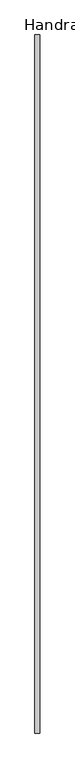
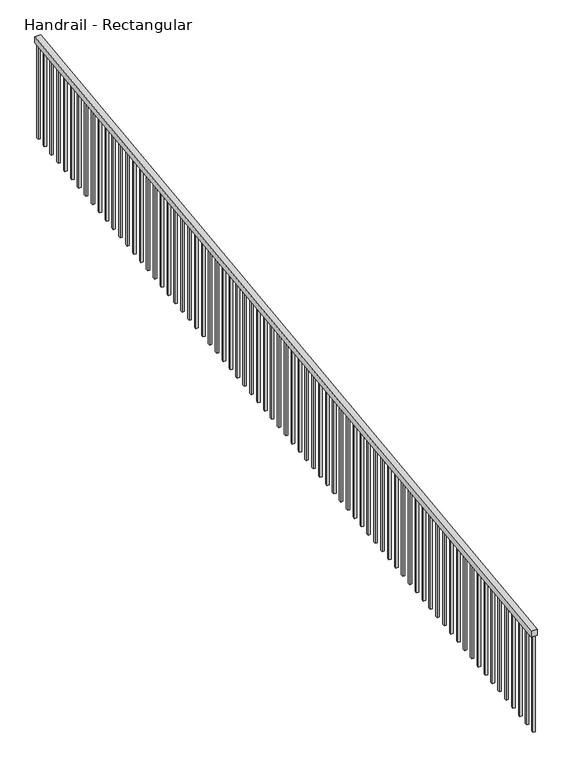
"""IFC4 building model written with IfcOpenShell, lengths in millimetres: railing geometry, Handrail - Rectangular."""

import ifcopenshell
import ifcopenshell.guid

model = None  # the IFC model being written
_history = None  # IfcOwnerHistory: only IFC2X3 demands one
_inside = {}  # id of a spatial element -> (the spatial element, [elements in it])
_under = {}  # id of a project, library or spatial element -> (it, [spatial elements below it])
_declared = {}  # id of a project -> (the project, [libraries it declares])
_typed = {}  # id of a type object -> (the type object, [elements of that type])
_made_of = {}  # id of a material, layer set ... -> (it, [elements and type objects made of it])


def new_model(schema):
    """Start an empty IFC model of exactly this schema.

    Asked for "IFC4X3", IfcOpenShell would pick the latest addendum, in which some entities
    have other attributes; the version numbers below select the first issue.
    IFC2X3 requires an IfcOwnerHistory on every rooted entity: one is made here for all.
    """
    global model, _history
    if schema == "IFC4X3":
        model = ifcopenshell.file(schema_version=(4, 3, 0, 0))
    else:
        model = ifcopenshell.file(schema=schema)
    _inside.clear()
    _under.clear()
    _declared.clear()
    _typed.clear()
    _made_of.clear()
    _history = None
    if model.schema == "IFC2X3":
        org = make("IfcOrganization", Name="unknown")
        user = make(
            "IfcPersonAndOrganization",
            ThePerson=make("IfcPerson", FamilyName="unknown"),
            TheOrganization=org,
        )
        app = make(
            "IfcApplication",
            ApplicationDeveloper=org,
            Version="unknown",
            ApplicationFullName="unknown",
            ApplicationIdentifier="unknown",
        )
        _history = make(
            "IfcOwnerHistory",
            OwningUser=user,
            OwningApplication=app,
            ChangeAction="ADDED",
            CreationDate=0,
        )
    return model


def make(cls, **values):
    """One entity of the class cls with the attributes given. An attribute that is None is left unset."""
    return model.create_entity(
        cls, **{name: value for name, value in values.items() if value is not None}
    )


def rooted(cls, **values):
    """An entity with a GlobalId (a new one), such as an element, a storey or a relation."""
    return make(cls, GlobalId=ifcopenshell.guid.new(), OwnerHistory=_history, **values)


def si_unit(unit_type, name, prefix=None):
    """IfcSIUnit, for example si_unit("LENGTHUNIT", "METRE", prefix="MILLI")."""
    return make("IfcSIUnit", UnitType=unit_type, Prefix=prefix, Name=name)


def assignment(units):
    """IfcUnitAssignment: the units of a project."""
    return None if units is None else make("IfcUnitAssignment", Units=units)


def point(xyz):
    """IfcCartesianPoint."""
    return None if xyz is None else make("IfcCartesianPoint", Coordinates=xyz)


def direction(xyz):
    """IfcDirection."""
    return None if xyz is None else make("IfcDirection", DirectionRatios=xyz)


def frame(location, z_axis=None, x_axis=None):
    """IfcAxis2Placement3D, a coordinate frame: its origin and axes. An axis left out is left unset."""
    return make(
        "IfcAxis2Placement3D",
        Location=point(location),
        Axis=direction(z_axis),
        RefDirection=direction(x_axis),
    )


def origin():
    """The frame at (0, 0, 0) with its axes left unset."""
    return frame((0.0, 0.0, 0.0))


def place(relative_to, where):
    """IfcLocalPlacement: puts the frame where relative to a parent placement (None: the world)."""
    return make(
        "IfcLocalPlacement", PlacementRelTo=relative_to, RelativePlacement=where
    )


def context(
    kind, dimensions, precision=None, world=None, true_north=None, identifier=None
):
    """IfcGeometricRepresentationContext, for example the 3D "Model" context."""
    return make(
        "IfcGeometricRepresentationContext",
        ContextIdentifier=identifier,
        ContextType=kind,
        CoordinateSpaceDimension=dimensions,
        Precision=precision,
        WorldCoordinateSystem=world,
        TrueNorth=true_north,
    )


def project(units=None, contexts=None):
    """IfcProject with its units and contexts."""
    return rooted(
        "IfcProject",
        Name="project",
        RepresentationContexts=contexts,
        UnitsInContext=assignment(units),
    )


def spatial(cls, under=None, at=None, **own):
    """A site, building, storey or space (cls), placed at a placement, below another one or the project."""
    s = rooted(cls, ObjectPlacement=at, **own)
    if under is not None:
        _under.setdefault(under.id(), (under, []))[1].append(s)
    return s


def polyline(points):
    """IfcPolyline through the points."""
    return make("IfcPolyline", Points=[point(p) for p in points])


def outline(outer, holes=None, kind="AREA"):
    """IfcArbitraryClosedProfileDef: a profile drawn as a closed curve; with holes, ...WithVoids."""
    if holes is None:
        return make("IfcArbitraryClosedProfileDef", ProfileType=kind, OuterCurve=outer)
    return make(
        "IfcArbitraryProfileDefWithVoids",
        ProfileType=kind,
        OuterCurve=outer,
        InnerCurves=holes,
    )


def extrude(swept, where, along, depth):
    """IfcExtrudedAreaSolid: the profile swept, set in the frame where, extruded along a direction by depth."""
    return make(
        "IfcExtrudedAreaSolid",
        SweptArea=swept,
        Position=where,
        ExtrudedDirection=direction(along),
        Depth=depth,
    )


def shape(context_of_items, identifier, shape_type, items):
    """IfcShapeRepresentation: the items that make up one representation, for example the "Body"."""
    return make(
        "IfcShapeRepresentation",
        ContextOfItems=context_of_items,
        RepresentationIdentifier=identifier,
        RepresentationType=shape_type,
        Items=items,
    )


def source(mapping_origin, context_of_items, identifier, shape_type, items):
    """IfcRepresentationMap: a shape defined once, which mapped items show again and again."""
    return make(
        "IfcRepresentationMap",
        MappingOrigin=mapping_origin,
        MappedRepresentation=shape(context_of_items, identifier, shape_type, items),
    )


def transform(
    local_origin,
    x_axis=None,
    y_axis=None,
    z_axis=None,
    scale=None,
    scale2=None,
    scale3=None,
    uniform=True,
):
    """IfcCartesianTransformationOperator3D, or its non-uniform kind. x_axis, y_axis, z_axis: its Axis1, 2, 3."""
    if uniform:
        return make(
            "IfcCartesianTransformationOperator3D",
            Axis1=direction(x_axis),
            Axis2=direction(y_axis),
            LocalOrigin=point(local_origin),
            Scale=scale,
            Axis3=direction(z_axis),
        )
    return make(
        "IfcCartesianTransformationOperator3DnonUniform",
        Axis1=direction(x_axis),
        Axis2=direction(y_axis),
        LocalOrigin=point(local_origin),
        Scale=scale,
        Axis3=direction(z_axis),
        Scale2=scale2,
        Scale3=scale3,
    )


def mapped(mapping_source, mapping_target):
    """IfcMappedItem: shows the shape of a source again, moved by a transform."""
    return make(
        "IfcMappedItem", MappingSource=mapping_source, MappingTarget=mapping_target
    )


def made_of(thing, what):
    """Note that an element or type object is made of a material, layer set ...; save() writes the relation."""
    if what is not None:
        _made_of.setdefault(what.id(), (what, []))[1].append(thing)
    return thing


def element(
    cls,
    number,
    at=None,
    inside=None,
    cuts=None,
    type_object=None,
    material=None,
    context=None,
    identifier="Body",
    shape_type=None,
    held_by="IfcProductDefinitionShape",
    body=None,
    shapes=None,
    **own,
):
    """One element of the class cls, such as IfcWall. Its Tag is "e" and its number.

    at: its placement. inside: the storey or other place that contains it. cuts: it is an
    opening in that element (IfcRelVoidsElement). A single representation is given by context,
    identifier, shape_type and body (its items); several are given by shapes. held_by: the class
    of the entity that holds the representations. save() writes the other relations.
    """
    e = rooted(cls, Tag="e%d" % number, ObjectPlacement=at, **own)
    if body is not None:
        shapes = [shape(context, identifier, shape_type, body)]
    if shapes is not None:
        e.Representation = make(held_by, Representations=shapes)
    if inside is not None:
        _inside.setdefault(inside.id(), (inside, []))[1].append(e)
    if cuts is not None:
        rooted(
            "IfcRelVoidsElement", RelatingBuildingElement=cuts, RelatedOpeningElement=e
        )
    if type_object is not None:
        _typed.setdefault(type_object.id(), (type_object, []))[1].append(e)
    return made_of(e, material)


def aggregate(whole, parts):
    """IfcRelAggregates: a whole, such as a stair, and the parts it consists of."""
    return rooted("IfcRelAggregates", RelatingObject=whole, RelatedObjects=parts)


def save(model, path):
    """Write the relations noted so far, then the file.

    IfcRelAggregates (storeys below a building ...), IfcRelContainedInSpatialStructure (elements
    in a storey), IfcRelDefinesByType, IfcRelAssociatesMaterial and IfcRelDeclares: one each for
    every whole, place, type object, material and project.
    """
    for whole, parts in _under.values():
        aggregate(whole, parts)
    for where, things in _inside.values():
        rooted(
            "IfcRelContainedInSpatialStructure",
            RelatedElements=things,
            RelatingStructure=where,
        )
    for kind, things in _typed.values():
        rooted("IfcRelDefinesByType", RelatedObjects=things, RelatingType=kind)
    for what, things in _made_of.values():
        rooted("IfcRelAssociatesMaterial", RelatedObjects=things, RelatingMaterial=what)
    for by, libraries in _declared.values():
        rooted("IfcRelDeclares", RelatingContext=by, RelatedDefinitions=libraries)
    model.write(path)


def handrail_rectangular_7ac86f87(model_context):
    return source(origin(), model_context, "Body", "SweptSolid", [
        extrude(outline(polyline([(-10044.7467479, -51.1953367), (-10044.7467479, 0.0), (-2729.5467479, 914.4), (-2729.5467479, 863.2046633), (-10044.7467479, -51.1953367)])), frame((-169.3256242, 0.0, 0.0), z_axis=(1.0, 0.0, 0.0), x_axis=(0.0, 1.0, 0.0)), (0.0, 0.0, 1.0), 50.8),
        extrude(outline(polyline([(-2821.6217479, 851.6952883), (-2821.6217479, -11.509375), (-2840.6717479, -13.890625), (-2840.6717479, 849.3140383), (-2821.6217479, 851.6952883)])), frame((-153.4506242, 0.0, 0.0), z_axis=(1.0, 0.0, 0.0), x_axis=(0.0, 1.0, 0.0)), (0.0, 0.0, 1.0), 19.05),
        extrude(outline(polyline([(-2923.2217479, 838.9952883), (-2923.2217479, -24.209375), (-2942.2717479, -26.590625), (-2942.2717479, 836.6140383), (-2923.2217479, 838.9952883)])), frame((-153.4506242, 0.0, 0.0), z_axis=(1.0, 0.0, 0.0), x_axis=(0.0, 1.0, 0.0)), (0.0, 0.0, 1.0), 19.05),
        extrude(outline(polyline([(-3024.8217479, 826.2952883), (-3024.8217479, -36.909375), (-3043.8717479, -39.290625), (-3043.8717479, 823.9140383), (-3024.8217479, 826.2952883)])), frame((-153.4506242, 0.0, 0.0), z_axis=(1.0, 0.0, 0.0), x_axis=(0.0, 1.0, 0.0)), (0.0, 0.0, 1.0), 19.05),
        extrude(outline(polyline([(-3126.4217479, 813.5952883), (-3126.4217479, -49.609375), (-3145.4717479, -51.990625), (-3145.4717479, 811.2140383), (-3126.4217479, 813.5952883)])), frame((-153.4506242, 0.0, 0.0), z_axis=(1.0, 0.0, 0.0), x_axis=(0.0, 1.0, 0.0)), (0.0, 0.0, 1.0), 19.05),
        extrude(outline(polyline([(-3228.0217479, 800.8952883), (-3228.0217479, -62.309375), (-3247.0717479, -64.690625), (-3247.0717479, 798.5140383), (-3228.0217479, 800.8952883)])), frame((-153.4506242, 0.0, 0.0), z_axis=(1.0, 0.0, 0.0), x_axis=(0.0, 1.0, 0.0)), (0.0, 0.0, 1.0), 19.05),
        extrude(outline(polyline([(-3329.6217479, 788.1952883), (-3329.6217479, -75.009375), (-3348.6717479, -77.390625), (-3348.6717479, 785.8140383), (-3329.6217479, 788.1952883)])), frame((-153.4506242, 0.0, 0.0), z_axis=(1.0, 0.0, 0.0), x_axis=(0.0, 1.0, 0.0)), (0.0, 0.0, 1.0), 19.05),
        extrude(outline(polyline([(-3431.2217479, 775.4952883), (-3431.2217479, -87.709375), (-3450.2717479, -90.090625), (-3450.2717479, 773.1140383), (-3431.2217479, 775.4952883)])), frame((-153.4506242, 0.0, 0.0), z_axis=(1.0, 0.0, 0.0), x_axis=(0.0, 1.0, 0.0)), (0.0, 0.0, 1.0), 19.05),
        extrude(outline(polyline([(-3532.8217479, 762.7952883), (-3532.8217479, -100.409375), (-3551.8717479, -102.790625), (-3551.8717479, 760.4140383), (-3532.8217479, 762.7952883)])), frame((-153.4506242, 0.0, 0.0), z_axis=(1.0, 0.0, 0.0), x_axis=(0.0, 1.0, 0.0)), (0.0, 0.0, 1.0), 19.05),
        extrude(outline(polyline([(-3634.4217479, 750.0952883), (-3634.4217479, -113.109375), (-3653.4717479, -115.490625), (-3653.4717479, 747.7140383), (-3634.4217479, 750.0952883)])), frame((-153.4506242, 0.0, 0.0), z_axis=(1.0, 0.0, 0.0), x_axis=(0.0, 1.0, 0.0)), (0.0, 0.0, 1.0), 19.05),
        extrude(outline(polyline([(-3736.0217479, 737.3952883), (-3736.0217479, -125.809375), (-3755.0717479, -128.190625), (-3755.0717479, 735.0140383), (-3736.0217479, 737.3952883)])), frame((-153.4506242, 0.0, 0.0), z_axis=(1.0, 0.0, 0.0), x_axis=(0.0, 1.0, 0.0)), (0.0, 0.0, 1.0), 19.05),
        extrude(outline(polyline([(-3837.6217479, 724.6952883), (-3837.6217479, -138.509375), (-3856.6717479, -140.890625), (-3856.6717479, 722.3140383), (-3837.6217479, 724.6952883)])), frame((-153.4506242, 0.0, 0.0), z_axis=(1.0, 0.0, 0.0), x_axis=(0.0, 1.0, 0.0)), (0.0, 0.0, 1.0), 19.05),
        extrude(outline(polyline([(-3939.2217479, 711.9952883), (-3939.2217479, -151.209375), (-3958.2717479, -153.590625), (-3958.2717479, 709.6140383), (-3939.2217479, 711.9952883)])), frame((-153.4506242, 0.0, 0.0), z_axis=(1.0, 0.0, 0.0), x_axis=(0.0, 1.0, 0.0)), (0.0, 0.0, 1.0), 19.05),
        extrude(outline(polyline([(-4040.8217479, 699.2952883), (-4040.8217479, -163.909375), (-4059.8717479, -166.290625), (-4059.8717479, 696.9140383), (-4040.8217479, 699.2952883)])), frame((-153.4506242, 0.0, 0.0), z_axis=(1.0, 0.0, 0.0), x_axis=(0.0, 1.0, 0.0)), (0.0, 0.0, 1.0), 19.05),
        extrude(outline(polyline([(-4142.4217479, 686.5952883), (-4142.4217479, -176.609375), (-4161.4717479, -178.990625), (-4161.4717479, 684.2140383), (-4142.4217479, 686.5952883)])), frame((-153.4506242, 0.0, 0.0), z_axis=(1.0, 0.0, 0.0), x_axis=(0.0, 1.0, 0.0)), (0.0, 0.0, 1.0), 19.05),
        extrude(outline(polyline([(-4244.0217479, 673.8952883), (-4244.0217479, -189.309375), (-4263.0717479, -191.690625), (-4263.0717479, 671.5140383), (-4244.0217479, 673.8952883)])), frame((-153.4506242, 0.0, 0.0), z_axis=(1.0, 0.0, 0.0), x_axis=(0.0, 1.0, 0.0)), (0.0, 0.0, 1.0), 19.05),
        extrude(outline(polyline([(-4345.6217479, 661.1952883), (-4345.6217479, -202.009375), (-4364.6717479, -204.390625), (-4364.6717479, 658.8140383), (-4345.6217479, 661.1952883)])), frame((-153.4506242, 0.0, 0.0), z_axis=(1.0, 0.0, 0.0), x_axis=(0.0, 1.0, 0.0)), (0.0, 0.0, 1.0), 19.05),
        extrude(outline(polyline([(-4447.2217479, 648.4952883), (-4447.2217479, -214.709375), (-4466.2717479, -217.090625), (-4466.2717479, 646.1140383), (-4447.2217479, 648.4952883)])), frame((-153.4506242, 0.0, 0.0), z_axis=(1.0, 0.0, 0.0), x_axis=(0.0, 1.0, 0.0)), (0.0, 0.0, 1.0), 19.05),
        extrude(outline(polyline([(-4548.8217479, 635.7952883), (-4548.8217479, -227.409375), (-4567.8717479, -229.790625), (-4567.8717479, 633.4140383), (-4548.8217479, 635.7952883)])), frame((-153.4506242, 0.0, 0.0), z_axis=(1.0, 0.0, 0.0), x_axis=(0.0, 1.0, 0.0)), (0.0, 0.0, 1.0), 19.05),
        extrude(outline(polyline([(-4650.4217479, 623.0952883), (-4650.4217479, -240.109375), (-4669.4717479, -242.490625), (-4669.4717479, 620.7140383), (-4650.4217479, 623.0952883)])), frame((-153.4506242, 0.0, 0.0), z_axis=(1.0, 0.0, 0.0), x_axis=(0.0, 1.0, 0.0)), (0.0, 0.0, 1.0), 19.05),
        extrude(outline(polyline([(-4752.0217479, 610.3952883), (-4752.0217479, -252.809375), (-4771.0717479, -255.190625), (-4771.0717479, 608.0140383), (-4752.0217479, 610.3952883)])), frame((-153.4506242, 0.0, 0.0), z_axis=(1.0, 0.0, 0.0), x_axis=(0.0, 1.0, 0.0)), (0.0, 0.0, 1.0), 19.05),
        extrude(outline(polyline([(-4853.6217479, 597.6952883), (-4853.6217479, -265.509375), (-4872.6717479, -267.890625), (-4872.6717479, 595.3140383), (-4853.6217479, 597.6952883)])), frame((-153.4506242, 0.0, 0.0), z_axis=(1.0, 0.0, 0.0), x_axis=(0.0, 1.0, 0.0)), (0.0, 0.0, 1.0), 19.05),
        extrude(outline(polyline([(-4955.2217479, 584.9952883), (-4955.2217479, -278.209375), (-4974.2717479, -280.590625), (-4974.2717479, 582.6140383), (-4955.2217479, 584.9952883)])), frame((-153.4506242, 0.0, 0.0), z_axis=(1.0, 0.0, 0.0), x_axis=(0.0, 1.0, 0.0)), (0.0, 0.0, 1.0), 19.05),
        extrude(outline(polyline([(-5056.8217479, 572.2952883), (-5056.8217479, -290.909375), (-5075.8717479, -293.290625), (-5075.8717479, 569.9140383), (-5056.8217479, 572.2952883)])), frame((-153.4506242, 0.0, 0.0), z_axis=(1.0, 0.0, 0.0), x_axis=(0.0, 1.0, 0.0)), (0.0, 0.0, 1.0), 19.05),
        extrude(outline(polyline([(-5158.4217479, 559.5952883), (-5158.4217479, -303.609375), (-5177.4717479, -305.990625), (-5177.4717479, 557.2140383), (-5158.4217479, 559.5952883)])), frame((-153.4506242, 0.0, 0.0), z_axis=(1.0, 0.0, 0.0), x_axis=(0.0, 1.0, 0.0)), (0.0, 0.0, 1.0), 19.05),
        extrude(outline(polyline([(-5260.0217479, 546.8952883), (-5260.0217479, -316.309375), (-5279.0717479, -318.690625), (-5279.0717479, 544.5140383), (-5260.0217479, 546.8952883)])), frame((-153.4506242, 0.0, 0.0), z_axis=(1.0, 0.0, 0.0), x_axis=(0.0, 1.0, 0.0)), (0.0, 0.0, 1.0), 19.05),
        extrude(outline(polyline([(-5361.6217479, 534.1952883), (-5361.6217479, -329.009375), (-5380.6717479, -331.390625), (-5380.6717479, 531.8140383), (-5361.6217479, 534.1952883)])), frame((-153.4506242, 0.0, 0.0), z_axis=(1.0, 0.0, 0.0), x_axis=(0.0, 1.0, 0.0)), (0.0, 0.0, 1.0), 19.05),
        extrude(outline(polyline([(-5463.2217479, 521.4952883), (-5463.2217479, -341.709375), (-5482.2717479, -344.090625), (-5482.2717479, 519.1140383), (-5463.2217479, 521.4952883)])), frame((-153.4506242, 0.0, 0.0), z_axis=(1.0, 0.0, 0.0), x_axis=(0.0, 1.0, 0.0)), (0.0, 0.0, 1.0), 19.05),
        extrude(outline(polyline([(-5564.8217479, 508.7952883), (-5564.8217479, -354.409375), (-5583.8717479, -356.790625), (-5583.8717479, 506.4140383), (-5564.8217479, 508.7952883)])), frame((-153.4506242, 0.0, 0.0), z_axis=(1.0, 0.0, 0.0), x_axis=(0.0, 1.0, 0.0)), (0.0, 0.0, 1.0), 19.05),
        extrude(outline(polyline([(-5666.4217479, 496.0952883), (-5666.4217479, -367.109375), (-5685.4717479, -369.490625), (-5685.4717479, 493.7140383), (-5666.4217479, 496.0952883)])), frame((-153.4506242, 0.0, 0.0), z_axis=(1.0, 0.0, 0.0), x_axis=(0.0, 1.0, 0.0)), (0.0, 0.0, 1.0), 19.05),
        extrude(outline(polyline([(-5768.0217479, 483.3952883), (-5768.0217479, -379.809375), (-5787.0717479, -382.190625), (-5787.0717479, 481.0140383), (-5768.0217479, 483.3952883)])), frame((-153.4506242, 0.0, 0.0), z_axis=(1.0, 0.0, 0.0), x_axis=(0.0, 1.0, 0.0)), (0.0, 0.0, 1.0), 19.05),
        extrude(outline(polyline([(-5869.6217479, 470.6952883), (-5869.6217479, -392.509375), (-5888.6717479, -394.890625), (-5888.6717479, 468.3140383), (-5869.6217479, 470.6952883)])), frame((-153.4506242, 0.0, 0.0), z_axis=(1.0, 0.0, 0.0), x_axis=(0.0, 1.0, 0.0)), (0.0, 0.0, 1.0), 19.05),
        extrude(outline(polyline([(-5971.2217479, 457.9952883), (-5971.2217479, -405.209375), (-5990.2717479, -407.590625), (-5990.2717479, 455.6140383), (-5971.2217479, 457.9952883)])), frame((-153.4506242, 0.0, 0.0), z_axis=(1.0, 0.0, 0.0), x_axis=(0.0, 1.0, 0.0)), (0.0, 0.0, 1.0), 19.05),
        extrude(outline(polyline([(-6072.8217479, 445.2952883), (-6072.8217479, -417.909375), (-6091.8717479, -420.290625), (-6091.8717479, 442.9140383), (-6072.8217479, 445.2952883)])), frame((-153.4506242, 0.0, 0.0), z_axis=(1.0, 0.0, 0.0), x_axis=(0.0, 1.0, 0.0)), (0.0, 0.0, 1.0), 19.05),
        extrude(outline(polyline([(-6174.4217479, 432.5952883), (-6174.4217479, -430.609375), (-6193.4717479, -432.990625), (-6193.4717479, 430.2140383), (-6174.4217479, 432.5952883)])), frame((-153.4506242, 0.0, 0.0), z_axis=(1.0, 0.0, 0.0), x_axis=(0.0, 1.0, 0.0)), (0.0, 0.0, 1.0), 19.05),
        extrude(outline(polyline([(-6276.0217479, 419.8952883), (-6276.0217479, -443.309375), (-6295.0717479, -445.690625), (-6295.0717479, 417.5140383), (-6276.0217479, 419.8952883)])), frame((-153.4506242, 0.0, 0.0), z_axis=(1.0, 0.0, 0.0), x_axis=(0.0, 1.0, 0.0)), (0.0, 0.0, 1.0), 19.05),
        extrude(outline(polyline([(-6377.6217479, 407.1952883), (-6377.6217479, -456.009375), (-6396.6717479, -458.390625), (-6396.6717479, 404.8140383), (-6377.6217479, 407.1952883)])), frame((-153.4506242, 0.0, 0.0), z_axis=(1.0, 0.0, 0.0), x_axis=(0.0, 1.0, 0.0)), (0.0, 0.0, 1.0), 19.05),
        extrude(outline(polyline([(-6479.2217479, 394.4952883), (-6479.2217479, -468.709375), (-6498.2717479, -471.090625), (-6498.2717479, 392.1140383), (-6479.2217479, 394.4952883)])), frame((-153.4506242, 0.0, 0.0), z_axis=(1.0, 0.0, 0.0), x_axis=(0.0, 1.0, 0.0)), (0.0, 0.0, 1.0), 19.05),
        extrude(outline(polyline([(-6580.8217479, 381.7952883), (-6580.8217479, -481.409375), (-6599.8717479, -483.790625), (-6599.8717479, 379.4140383), (-6580.8217479, 381.7952883)])), frame((-153.4506242, 0.0, 0.0), z_axis=(1.0, 0.0, 0.0), x_axis=(0.0, 1.0, 0.0)), (0.0, 0.0, 1.0), 19.05),
        extrude(outline(polyline([(-6682.4217479, 369.0952883), (-6682.4217479, -494.109375), (-6701.4717479, -496.490625), (-6701.4717479, 366.7140383), (-6682.4217479, 369.0952883)])), frame((-153.4506242, 0.0, 0.0), z_axis=(1.0, 0.0, 0.0), x_axis=(0.0, 1.0, 0.0)), (0.0, 0.0, 1.0), 19.05),
        extrude(outline(polyline([(-6784.0217479, 356.3952883), (-6784.0217479, -506.809375), (-6803.0717479, -509.190625), (-6803.0717479, 354.0140383), (-6784.0217479, 356.3952883)])), frame((-153.4506242, 0.0, 0.0), z_axis=(1.0, 0.0, 0.0), x_axis=(0.0, 1.0, 0.0)), (0.0, 0.0, 1.0), 19.05),
        extrude(outline(polyline([(-6885.6217479, 343.6952883), (-6885.6217479, -519.509375), (-6904.6717479, -521.890625), (-6904.6717479, 341.3140383), (-6885.6217479, 343.6952883)])), frame((-153.4506242, 0.0, 0.0), z_axis=(1.0, 0.0, 0.0), x_axis=(0.0, 1.0, 0.0)), (0.0, 0.0, 1.0), 19.05),
        extrude(outline(polyline([(-6987.2217479, 330.9952883), (-6987.2217479, -532.209375), (-7006.2717479, -534.590625), (-7006.2717479, 328.6140383), (-6987.2217479, 330.9952883)])), frame((-153.4506242, 0.0, 0.0), z_axis=(1.0, 0.0, 0.0), x_axis=(0.0, 1.0, 0.0)), (0.0, 0.0, 1.0), 19.05),
        extrude(outline(polyline([(-7088.8217479, 318.2952883), (-7088.8217479, -544.909375), (-7107.8717479, -547.290625), (-7107.8717479, 315.9140383), (-7088.8217479, 318.2952883)])), frame((-153.4506242, 0.0, 0.0), z_axis=(1.0, 0.0, 0.0), x_axis=(0.0, 1.0, 0.0)), (0.0, 0.0, 1.0), 19.05),
        extrude(outline(polyline([(-7190.4217479, 305.5952883), (-7190.4217479, -557.609375), (-7209.4717479, -559.990625), (-7209.4717479, 303.2140383), (-7190.4217479, 305.5952883)])), frame((-153.4506242, 0.0, 0.0), z_axis=(1.0, 0.0, 0.0), x_axis=(0.0, 1.0, 0.0)), (0.0, 0.0, 1.0), 19.05),
        extrude(outline(polyline([(-7292.0217479, 292.8952883), (-7292.0217479, -570.309375), (-7311.0717479, -572.690625), (-7311.0717479, 290.5140383), (-7292.0217479, 292.8952883)])), frame((-153.4506242, 0.0, 0.0), z_axis=(1.0, 0.0, 0.0), x_axis=(0.0, 1.0, 0.0)), (0.0, 0.0, 1.0), 19.05),
        extrude(outline(polyline([(-7393.6217479, 280.1952883), (-7393.6217479, -583.009375), (-7412.6717479, -585.390625), (-7412.6717479, 277.8140383), (-7393.6217479, 280.1952883)])), frame((-153.4506242, 0.0, 0.0), z_axis=(1.0, 0.0, 0.0), x_axis=(0.0, 1.0, 0.0)), (0.0, 0.0, 1.0), 19.05),
        extrude(outline(polyline([(-7495.2217479, 267.4952883), (-7495.2217479, -595.709375), (-7514.2717479, -598.090625), (-7514.2717479, 265.1140383), (-7495.2217479, 267.4952883)])), frame((-153.4506242, 0.0, 0.0), z_axis=(1.0, 0.0, 0.0), x_axis=(0.0, 1.0, 0.0)), (0.0, 0.0, 1.0), 19.05),
        extrude(outline(polyline([(-7596.8217479, 254.7952883), (-7596.8217479, -608.409375), (-7615.8717479, -610.790625), (-7615.8717479, 252.4140383), (-7596.8217479, 254.7952883)])), frame((-153.4506242, 0.0, 0.0), z_axis=(1.0, 0.0, 0.0), x_axis=(0.0, 1.0, 0.0)), (0.0, 0.0, 1.0), 19.05),
        extrude(outline(polyline([(-7698.4217479, 242.0952883), (-7698.4217479, -621.109375), (-7717.4717479, -623.490625), (-7717.4717479, 239.7140383), (-7698.4217479, 242.0952883)])), frame((-153.4506242, 0.0, 0.0), z_axis=(1.0, 0.0, 0.0), x_axis=(0.0, 1.0, 0.0)), (0.0, 0.0, 1.0), 19.05),
        extrude(outline(polyline([(-7800.0217479, 229.3952883), (-7800.0217479, -633.809375), (-7819.0717479, -636.190625), (-7819.0717479, 227.0140383), (-7800.0217479, 229.3952883)])), frame((-153.4506242, 0.0, 0.0), z_axis=(1.0, 0.0, 0.0), x_axis=(0.0, 1.0, 0.0)), (0.0, 0.0, 1.0), 19.05),
        extrude(outline(polyline([(-7901.6217479, 216.6952883), (-7901.6217479, -646.509375), (-7920.6717479, -648.890625), (-7920.6717479, 214.3140383), (-7901.6217479, 216.6952883)])), frame((-153.4506242, 0.0, 0.0), z_axis=(1.0, 0.0, 0.0), x_axis=(0.0, 1.0, 0.0)), (0.0, 0.0, 1.0), 19.05),
        extrude(outline(polyline([(-8003.2217479, 203.9952883), (-8003.2217479, -659.209375), (-8022.2717479, -661.590625), (-8022.2717479, 201.6140383), (-8003.2217479, 203.9952883)])), frame((-153.4506242, 0.0, 0.0), z_axis=(1.0, 0.0, 0.0), x_axis=(0.0, 1.0, 0.0)), (0.0, 0.0, 1.0), 19.05),
        extrude(outline(polyline([(-8104.8217479, 191.2952883), (-8104.8217479, -671.909375), (-8123.8717479, -674.290625), (-8123.8717479, 188.9140383), (-8104.8217479, 191.2952883)])), frame((-153.4506242, 0.0, 0.0), z_axis=(1.0, 0.0, 0.0), x_axis=(0.0, 1.0, 0.0)), (0.0, 0.0, 1.0), 19.05),
        extrude(outline(polyline([(-8206.4217479, 178.5952883), (-8206.4217479, -684.609375), (-8225.4717479, -686.990625), (-8225.4717479, 176.2140383), (-8206.4217479, 178.5952883)])), frame((-153.4506242, 0.0, 0.0), z_axis=(1.0, 0.0, 0.0), x_axis=(0.0, 1.0, 0.0)), (0.0, 0.0, 1.0), 19.05),
        extrude(outline(polyline([(-8308.0217479, 165.8952883), (-8308.0217479, -697.309375), (-8327.0717479, -699.690625), (-8327.0717479, 163.5140383), (-8308.0217479, 165.8952883)])), frame((-153.4506242, 0.0, 0.0), z_axis=(1.0, 0.0, 0.0), x_axis=(0.0, 1.0, 0.0)), (0.0, 0.0, 1.0), 19.05),
        extrude(outline(polyline([(-8409.6217479, 153.1952883), (-8409.6217479, -710.009375), (-8428.6717479, -712.390625), (-8428.6717479, 150.8140383), (-8409.6217479, 153.1952883)])), frame((-153.4506242, 0.0, 0.0), z_axis=(1.0, 0.0, 0.0), x_axis=(0.0, 1.0, 0.0)), (0.0, 0.0, 1.0), 19.05),
        extrude(outline(polyline([(-8511.2217479, 140.4952883), (-8511.2217479, -722.709375), (-8530.2717479, -725.090625), (-8530.2717479, 138.1140383), (-8511.2217479, 140.4952883)])), frame((-153.4506242, 0.0, 0.0), z_axis=(1.0, 0.0, 0.0), x_axis=(0.0, 1.0, 0.0)), (0.0, 0.0, 1.0), 19.05),
        extrude(outline(polyline([(-8612.8217479, 127.7952883), (-8612.8217479, -735.409375), (-8631.8717479, -737.790625), (-8631.8717479, 125.4140383), (-8612.8217479, 127.7952883)])), frame((-153.4506242, 0.0, 0.0), z_axis=(1.0, 0.0, 0.0), x_axis=(0.0, 1.0, 0.0)), (0.0, 0.0, 1.0), 19.05),
        extrude(outline(polyline([(-8714.4217479, 115.0952883), (-8714.4217479, -748.109375), (-8733.4717479, -750.490625), (-8733.4717479, 112.7140383), (-8714.4217479, 115.0952883)])), frame((-153.4506242, 0.0, 0.0), z_axis=(1.0, 0.0, 0.0), x_axis=(0.0, 1.0, 0.0)), (0.0, 0.0, 1.0), 19.05),
        extrude(outline(polyline([(-8816.0217479, 102.3952883), (-8816.0217479, -760.809375), (-8835.0717479, -763.190625), (-8835.0717479, 100.0140383), (-8816.0217479, 102.3952883)])), frame((-153.4506242, 0.0, 0.0), z_axis=(1.0, 0.0, 0.0), x_axis=(0.0, 1.0, 0.0)), (0.0, 0.0, 1.0), 19.05),
        extrude(outline(polyline([(-8917.6217479, 89.6952883), (-8917.6217479, -773.509375), (-8936.6717479, -775.890625), (-8936.6717479, 87.3140383), (-8917.6217479, 89.6952883)])), frame((-153.4506242, 0.0, 0.0), z_axis=(1.0, 0.0, 0.0), x_axis=(0.0, 1.0, 0.0)), (0.0, 0.0, 1.0), 19.05),
        extrude(outline(polyline([(-9019.2217479, 76.9952883), (-9019.2217479, -786.209375), (-9038.2717479, -788.590625), (-9038.2717479, 74.6140383), (-9019.2217479, 76.9952883)])), frame((-153.4506242, 0.0, 0.0), z_axis=(1.0, 0.0, 0.0), x_axis=(0.0, 1.0, 0.0)), (0.0, 0.0, 1.0), 19.05),
        extrude(outline(polyline([(-9120.8217479, 64.2952883), (-9120.8217479, -798.909375), (-9139.8717479, -801.290625), (-9139.8717479, 61.9140383), (-9120.8217479, 64.2952883)])), frame((-153.4506242, 0.0, 0.0), z_axis=(1.0, 0.0, 0.0), x_axis=(0.0, 1.0, 0.0)), (0.0, 0.0, 1.0), 19.05),
        extrude(outline(polyline([(-9222.4217479, 51.5952883), (-9222.4217479, -811.609375), (-9241.4717479, -813.990625), (-9241.4717479, 49.2140383), (-9222.4217479, 51.5952883)])), frame((-153.4506242, 0.0, 0.0), z_axis=(1.0, 0.0, 0.0), x_axis=(0.0, 1.0, 0.0)), (0.0, 0.0, 1.0), 19.05),
        extrude(outline(polyline([(-9324.0217479, 38.8952883), (-9324.0217479, -824.309375), (-9343.0717479, -826.690625), (-9343.0717479, 36.5140383), (-9324.0217479, 38.8952883)])), frame((-153.4506242, 0.0, 0.0), z_axis=(1.0, 0.0, 0.0), x_axis=(0.0, 1.0, 0.0)), (0.0, 0.0, 1.0), 19.05),
        extrude(outline(polyline([(-9425.6217479, 26.1952883), (-9425.6217479, -837.009375), (-9444.6717479, -839.390625), (-9444.6717479, 23.8140383), (-9425.6217479, 26.1952883)])), frame((-153.4506242, 0.0, 0.0), z_axis=(1.0, 0.0, 0.0), x_axis=(0.0, 1.0, 0.0)), (0.0, 0.0, 1.0), 19.05),
        extrude(outline(polyline([(-9527.2217479, 13.4952883), (-9527.2217479, -849.709375), (-9546.2717479, -852.090625), (-9546.2717479, 11.1140383), (-9527.2217479, 13.4952883)])), frame((-153.4506242, 0.0, 0.0), z_axis=(1.0, 0.0, 0.0), x_axis=(0.0, 1.0, 0.0)), (0.0, 0.0, 1.0), 19.05),
        extrude(outline(polyline([(-9628.8217479, 0.7952883), (-9628.8217479, -862.409375), (-9647.8717479, -864.790625), (-9647.8717479, -1.5859617), (-9628.8217479, 0.7952883)])), frame((-153.4506242, 0.0, 0.0), z_axis=(1.0, 0.0, 0.0), x_axis=(0.0, 1.0, 0.0)), (0.0, 0.0, 1.0), 19.05),
        extrude(outline(polyline([(-9730.4217479, -11.9047117), (-9730.4217479, -875.109375), (-9749.4717479, -877.490625), (-9749.4717479, -14.2859617), (-9730.4217479, -11.9047117)])), frame((-153.4506242, 0.0, 0.0), z_axis=(1.0, 0.0, 0.0), x_axis=(0.0, 1.0, 0.0)), (0.0, 0.0, 1.0), 19.05),
        extrude(outline(polyline([(-9832.0217479, -24.6047117), (-9832.0217479, -887.809375), (-9851.0717479, -890.190625), (-9851.0717479, -26.9859617), (-9832.0217479, -24.6047117)])), frame((-153.4506242, 0.0, 0.0), z_axis=(1.0, 0.0, 0.0), x_axis=(0.0, 1.0, 0.0)), (0.0, 0.0, 1.0), 19.05),
        extrude(outline(polyline([(-9933.6217479, -37.3047117), (-9933.6217479, -900.509375), (-9952.6717479, -902.890625), (-9952.6717479, -39.6859617), (-9933.6217479, -37.3047117)])), frame((-153.4506242, 0.0, 0.0), z_axis=(1.0, 0.0, 0.0), x_axis=(0.0, 1.0, 0.0)), (0.0, 0.0, 1.0), 19.05),
        extrude(outline(polyline([(-2729.5467479, 863.2046633), (-2729.5467479, 0.0), (-2748.5967479, -2.38125), (-2748.5967479, 860.8234133), (-2729.5467479, 863.2046633)])), frame((-153.4506242, 0.0, 0.0), z_axis=(1.0, 0.0, 0.0), x_axis=(0.0, 1.0, 0.0)), (0.0, 0.0, 1.0), 19.05),
        extrude(outline(polyline([(-10025.6967479, -48.8140867), (-10025.6967479, -912.01875), (-10044.7467479, -914.4), (-10044.7467479, -51.1953367), (-10025.6967479, -48.8140867)])), frame((-153.4506242, 0.0, 0.0), z_axis=(1.0, 0.0, 0.0), x_axis=(0.0, 1.0, 0.0)), (0.0, 0.0, 1.0), 19.05),
    ])


if __name__ == "__main__":
    model = new_model("IFC4")
    model_context = context("Model", 3, world=origin())
    ifc_project = project(units=[si_unit("LENGTHUNIT", "METRE", prefix="MILLI")], contexts=[model_context])
    site = spatial("IfcSite", under=ifc_project)
    building = spatial("IfcBuilding", under=site)
    placement = place(None, origin())
    handrail_rectangular_shape = handrail_rectangular_7ac86f87(model_context)
    element("IfcRailing", 1, ObjectType="Handrail - Rectangular", at=placement, inside=building, context=model_context, shape_type="MappedRepresentation", body=[
        mapped(handrail_rectangular_shape, transform((0.0, 0.0, 0.0), x_axis=(1.0, 0.0, 0.0), y_axis=(0.0, 1.0, 0.0), z_axis=(0.0, 0.0, 1.0))),
    ])
    save(model, "model.ifc")
